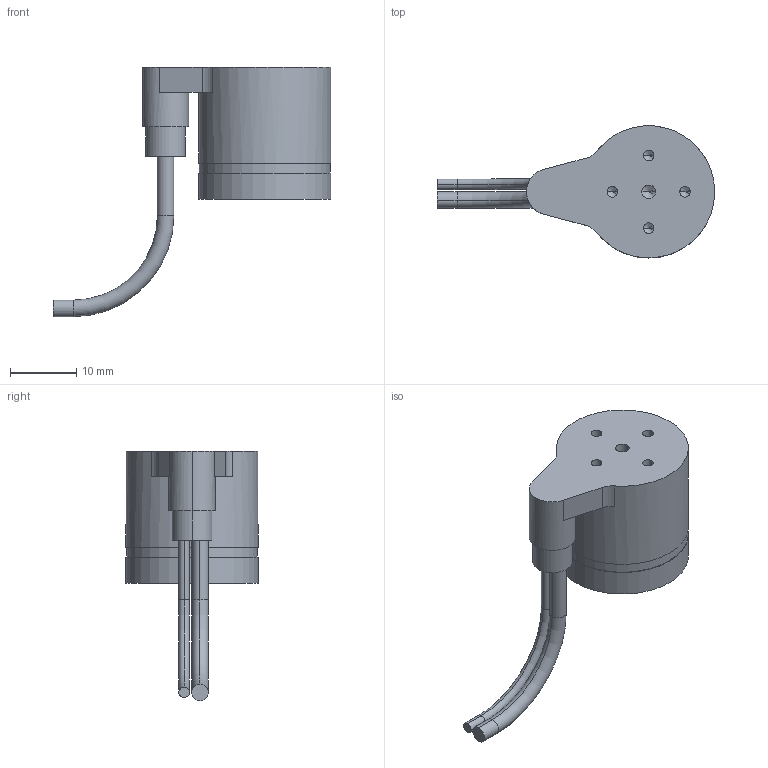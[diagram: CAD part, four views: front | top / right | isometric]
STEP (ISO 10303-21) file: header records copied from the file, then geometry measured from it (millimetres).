
FILE_DESCRIPTION (( 'STEP AP203' ), '1' );
FILE_NAME ('S38.T1SH-B1外形三维（出线朝上）-21.05.28.STEP', '2021-05-28T08:10:01', ( 'Windows 用户' ), ( '微软中国' ), 'SwSTEP 2.0', 'SolidWorks 2016', '' );
FILE_SCHEMA (( 'CONFIG_CONTROL_DESIGN' ));
Length unit declared in the file: millimetre
Products named in the file (1): S38.T1SH-B1外形三维（出线朝上）-21.05.28
Bounding box: 42 x 20 x 37.75 mm (x, y, z)
Volume: 7038.3 mm3; surface area: 2821.9 mm2
Topology: 1 solids, 1 shells, 58 faces, 132 edges, 77 vertices
Faces by surface type: cylinder 32, plane 12, cone 10, torus 4
Entity records: 1651 total; most frequent: DIRECTION 312, CARTESIAN_POINT 258, ORIENTED_EDGE 244, AXIS2_PLACEMENT_3D 131, EDGE_CURVE 122, VERTEX_POINT 77, CIRCLE 72, EDGE_LOOP 69
